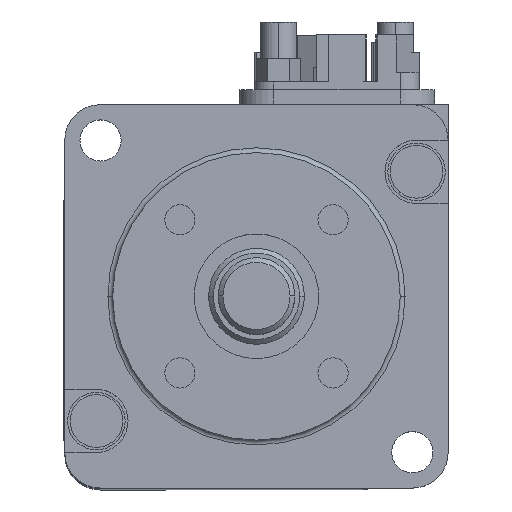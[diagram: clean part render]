
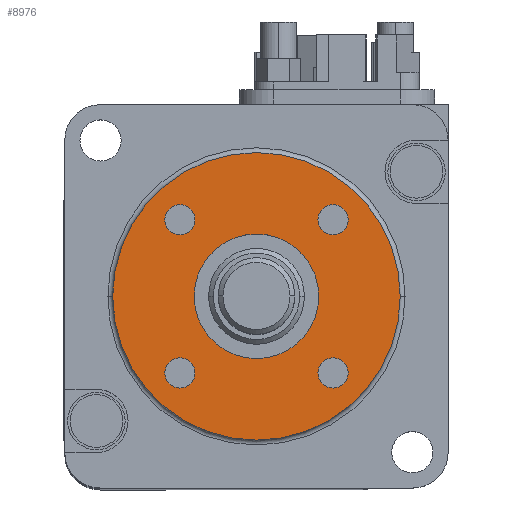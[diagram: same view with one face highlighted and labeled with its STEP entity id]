
A CAD part, top view. The second image highlights one B-rep face of the part: STEP entity #8976.
In plain terms, the highlighted planar face has unit normal (0, 0, 1).
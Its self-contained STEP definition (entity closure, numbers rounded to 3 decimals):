
#124 = CARTESIAN_POINT ( 'NONE',  ( 7.99, -7.99, 2.5 ) ) ;
#358 = FACE_OUTER_BOUND ( 'NONE', #4083, .T. ) ;
#498 = ORIENTED_EDGE ( 'NONE', *, *, #5294, .F. ) ;
#799 = VERTEX_POINT ( 'NONE', #13265 ) ;
#888 = CARTESIAN_POINT ( 'NONE',  ( -7.99, 7.99, 2.5 ) ) ;
#920 = DIRECTION ( 'NONE',  ( 0., 0., 1. ) ) ;
#976 = DIRECTION ( 'NONE',  ( 0., 0., 1. ) ) ;
#1011 = CIRCLE ( 'NONE', #3775, 15. ) ;
#1180 = ORIENTED_EDGE ( 'NONE', *, *, #15748, .T. ) ;
#1221 = FACE_BOUND ( 'NONE', #7772, .T. ) ;
#1483 = DIRECTION ( 'NONE',  ( 0., 0., 1. ) ) ;
#1564 = VERTEX_POINT ( 'NONE', #4615 ) ;
#1711 = DIRECTION ( 'NONE',  ( 1., 0., 0. ) ) ;
#2157 = DIRECTION ( 'NONE',  ( 1., 0., 0. ) ) ;
#2290 = DIRECTION ( 'NONE',  ( 1., 0., 0. ) ) ;
#2296 = DIRECTION ( 'NONE',  ( 1., 0., 0. ) ) ;
#2328 = ORIENTED_EDGE ( 'NONE', *, *, #11737, .F. ) ;
#2395 = AXIS2_PLACEMENT_3D ( 'NONE', #9870, #3377, #12590 ) ;
#2512 = DIRECTION ( 'NONE',  ( 1., 0., 0. ) ) ;
#3377 = DIRECTION ( 'NONE',  ( 0., 0., 1. ) ) ;
#3460 = CARTESIAN_POINT ( 'NONE',  ( 7.99, 7.99, 2.5 ) ) ;
#3578 = VERTEX_POINT ( 'NONE', #7735 ) ;
#3615 = ORIENTED_EDGE ( 'NONE', *, *, #11419, .F. ) ;
#3775 = AXIS2_PLACEMENT_3D ( 'NONE', #10921, #7000, #9615 ) ;
#3875 = ORIENTED_EDGE ( 'NONE', *, *, #7317, .F. ) ;
#3891 = CIRCLE ( 'NONE', #10643, 6.5 ) ;
#4066 = DIRECTION ( 'NONE',  ( 0., 0., 1. ) ) ;
#4083 = EDGE_LOOP ( 'NONE', ( #12056, #1180 ) ) ;
#4376 = EDGE_CURVE ( 'NONE', #799, #9630, #1011, .T. ) ;
#4473 = EDGE_CURVE ( 'NONE', #5831, #16927, #10993, .T. ) ;
#4615 = CARTESIAN_POINT ( 'NONE',  ( 6.416, -7.99, 2.5 ) ) ;
#4648 = DIRECTION ( 'NONE',  ( 0., 0., 1. ) ) ;
#4669 = CARTESIAN_POINT ( 'NONE',  ( -9.564, 7.99, 2.5 ) ) ;
#4710 = CIRCLE ( 'NONE', #8220, 1.574 ) ;
#5237 = VERTEX_POINT ( 'NONE', #16168 ) ;
#5294 = EDGE_CURVE ( 'NONE', #11097, #5865, #12782, .T. ) ;
#5381 = DIRECTION ( 'NONE',  ( 1., 0., 0. ) ) ;
#5541 = CARTESIAN_POINT ( 'NONE',  ( 0., 0., 2.5 ) ) ;
#5666 = CIRCLE ( 'NONE', #16849, 1.574 ) ;
#5686 = CARTESIAN_POINT ( 'NONE',  ( 9.564, 7.99, 2.5 ) ) ;
#5715 = EDGE_LOOP ( 'NONE', ( #498, #7798 ) ) ;
#5831 = VERTEX_POINT ( 'NONE', #7574 ) ;
#5865 = VERTEX_POINT ( 'NONE', #6442 ) ;
#6442 = CARTESIAN_POINT ( 'NONE',  ( 6.416, 7.99, 2.5 ) ) ;
#7000 = DIRECTION ( 'NONE',  ( 0., 0., 1. ) ) ;
#7081 = AXIS2_PLACEMENT_3D ( 'NONE', #16572, #976, #2290 ) ;
#7317 = EDGE_CURVE ( 'NONE', #3578, #15804, #14181, .T. ) ;
#7331 = DIRECTION ( 'NONE',  ( 1., 0., 0. ) ) ;
#7574 = CARTESIAN_POINT ( 'NONE',  ( -6.416, 7.99, 2.5 ) ) ;
#7642 = CARTESIAN_POINT ( 'NONE',  ( -7.99, -7.99, 2.5 ) ) ;
#7735 = CARTESIAN_POINT ( 'NONE',  ( -6.416, -7.99, 2.5 ) ) ;
#7772 = EDGE_LOOP ( 'NONE', ( #15528, #12279 ) ) ;
#7798 = ORIENTED_EDGE ( 'NONE', *, *, #8339, .F. ) ;
#8038 = ORIENTED_EDGE ( 'NONE', *, *, #15921, .F. ) ;
#8171 = DIRECTION ( 'NONE',  ( 1., 0., 0. ) ) ;
#8185 = DIRECTION ( 'NONE',  ( 0., 0., 1. ) ) ;
#8220 = AXIS2_PLACEMENT_3D ( 'NONE', #14030, #920, #2296 ) ;
#8339 = EDGE_CURVE ( 'NONE', #5865, #11097, #4710, .T. ) ;
#8740 = FACE_BOUND ( 'NONE', #10136, .T. ) ;
#8976 = ADVANCED_FACE ( 'NONE', ( #1221, #9155, #14670, #12439, #8740, #358 ), #16362, .T. ) ;
#9016 = EDGE_LOOP ( 'NONE', ( #3875, #3615 ) ) ;
#9025 = EDGE_CURVE ( 'NONE', #10228, #5237, #3891, .T. ) ;
#9123 = ORIENTED_EDGE ( 'NONE', *, *, #4473, .F. ) ;
#9155 = FACE_BOUND ( 'NONE', #9016, .T. ) ;
#9247 = CIRCLE ( 'NONE', #12888, 1.574 ) ;
#9508 = CIRCLE ( 'NONE', #13600, 6.5 ) ;
#9615 = DIRECTION ( 'NONE',  ( 1., 0., 0. ) ) ;
#9630 = VERTEX_POINT ( 'NONE', #11185 ) ;
#9832 = CARTESIAN_POINT ( 'NONE',  ( 0., 0., 2.5 ) ) ;
#9870 = CARTESIAN_POINT ( 'NONE',  ( 0., 0., 2.5 ) ) ;
#9980 = CARTESIAN_POINT ( 'NONE',  ( 9.564, -7.99, 2.5 ) ) ;
#10020 = DIRECTION ( 'NONE',  ( 0., 0., 1. ) ) ;
#10133 = AXIS2_PLACEMENT_3D ( 'NONE', #10802, #4066, #8171 ) ;
#10136 = EDGE_LOOP ( 'NONE', ( #13466, #2328 ) ) ;
#10228 = VERTEX_POINT ( 'NONE', #12733 ) ;
#10250 = AXIS2_PLACEMENT_3D ( 'NONE', #888, #10020, #2157 ) ;
#10643 = AXIS2_PLACEMENT_3D ( 'NONE', #15180, #11376, #12831 ) ;
#10802 = CARTESIAN_POINT ( 'NONE',  ( 7.99, -7.99, 2.5 ) ) ;
#10921 = CARTESIAN_POINT ( 'NONE',  ( 0., 0., 2.5 ) ) ;
#10993 = CIRCLE ( 'NONE', #10250, 1.574 ) ;
#11097 = VERTEX_POINT ( 'NONE', #5686 ) ;
#11185 = CARTESIAN_POINT ( 'NONE',  ( 15., 0., 2.5 ) ) ;
#11207 = DIRECTION ( 'NONE',  ( 0., 0., 1. ) ) ;
#11263 = DIRECTION ( 'NONE',  ( 1., 0., 0. ) ) ;
#11288 = AXIS2_PLACEMENT_3D ( 'NONE', #13966, #14032, #7331 ) ;
#11352 = VERTEX_POINT ( 'NONE', #9980 ) ;
#11376 = DIRECTION ( 'NONE',  ( 0., 0., 1. ) ) ;
#11419 = EDGE_CURVE ( 'NONE', #15804, #3578, #5666, .T. ) ;
#11698 = DIRECTION ( 'NONE',  ( 0., 0., 1. ) ) ;
#11737 = EDGE_CURVE ( 'NONE', #5237, #10228, #9508, .T. ) ;
#12056 = ORIENTED_EDGE ( 'NONE', *, *, #4376, .T. ) ;
#12247 = AXIS2_PLACEMENT_3D ( 'NONE', #3460, #4648, #13835 ) ;
#12279 = ORIENTED_EDGE ( 'NONE', *, *, #13128, .F. ) ;
#12439 = FACE_BOUND ( 'NONE', #5715, .T. ) ;
#12590 = DIRECTION ( 'NONE',  ( 1., 0., 0. ) ) ;
#12600 = EDGE_LOOP ( 'NONE', ( #9123, #8038 ) ) ;
#12701 = CIRCLE ( 'NONE', #7081, 1.574 ) ;
#12733 = CARTESIAN_POINT ( 'NONE',  ( 6.5, 0., 2.5 ) ) ;
#12782 = CIRCLE ( 'NONE', #12247, 1.574 ) ;
#12831 = DIRECTION ( 'NONE',  ( 1., 0., 0. ) ) ;
#12888 = AXIS2_PLACEMENT_3D ( 'NONE', #124, #1483, #5381 ) ;
#12911 = CIRCLE ( 'NONE', #2395, 15. ) ;
#13128 = EDGE_CURVE ( 'NONE', #1564, #11352, #13643, .T. ) ;
#13265 = CARTESIAN_POINT ( 'NONE',  ( -15., 0., 2.5 ) ) ;
#13466 = ORIENTED_EDGE ( 'NONE', *, *, #9025, .F. ) ;
#13600 = AXIS2_PLACEMENT_3D ( 'NONE', #5541, #8185, #1711 ) ;
#13643 = CIRCLE ( 'NONE', #10133, 1.574 ) ;
#13835 = DIRECTION ( 'NONE',  ( 1., 0., 0. ) ) ;
#13966 = CARTESIAN_POINT ( 'NONE',  ( -7.99, -7.99, 2.5 ) ) ;
#14030 = CARTESIAN_POINT ( 'NONE',  ( 7.99, 7.99, 2.5 ) ) ;
#14032 = DIRECTION ( 'NONE',  ( 0., 0., 1. ) ) ;
#14043 = AXIS2_PLACEMENT_3D ( 'NONE', #9832, #11207, #11263 ) ;
#14181 = CIRCLE ( 'NONE', #11288, 1.574 ) ;
#14405 = EDGE_CURVE ( 'NONE', #11352, #1564, #9247, .T. ) ;
#14670 = FACE_BOUND ( 'NONE', #12600, .T. ) ;
#15180 = CARTESIAN_POINT ( 'NONE',  ( 0., 0., 2.5 ) ) ;
#15528 = ORIENTED_EDGE ( 'NONE', *, *, #14405, .F. ) ;
#15748 = EDGE_CURVE ( 'NONE', #9630, #799, #12911, .T. ) ;
#15804 = VERTEX_POINT ( 'NONE', #16351 ) ;
#15921 = EDGE_CURVE ( 'NONE', #16927, #5831, #12701, .T. ) ;
#16168 = CARTESIAN_POINT ( 'NONE',  ( -6.5, 0., 2.5 ) ) ;
#16351 = CARTESIAN_POINT ( 'NONE',  ( -9.564, -7.99, 2.5 ) ) ;
#16362 = PLANE ( 'NONE',  #14043 ) ;
#16572 = CARTESIAN_POINT ( 'NONE',  ( -7.99, 7.99, 2.5 ) ) ;
#16849 = AXIS2_PLACEMENT_3D ( 'NONE', #7642, #11698, #2512 ) ;
#16927 = VERTEX_POINT ( 'NONE', #4669 ) ;
